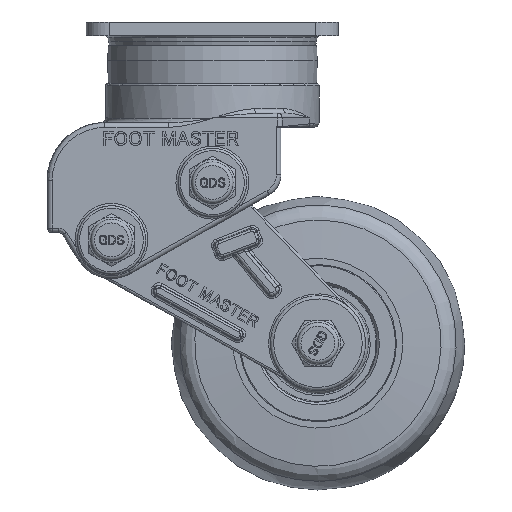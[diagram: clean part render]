
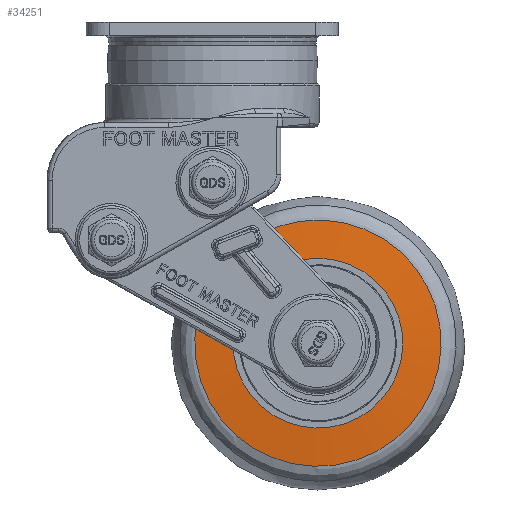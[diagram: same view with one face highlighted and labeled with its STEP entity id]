
A CAD part, front view. The second image highlights one B-rep face of the part: STEP entity #34251.
In plain terms, the highlighted conical face has half-angle 85 degrees and reference radius 22.669 mm.
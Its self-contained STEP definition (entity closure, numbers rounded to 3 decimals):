
#2343=CONICAL_SURFACE('',#36449,22.669,1.484);
#5573=FACE_OUTER_BOUND('',#7533,.T.);
#7533=EDGE_LOOP('',(#24770,#24771,#24772,#24773,#24774,#24775));
#9733=LINE('',#48660,#12195);
#12195=VECTOR('',#39584,22.669);
#14574=CIRCLE('',#36447,26.838);
#14575=CIRCLE('',#36448,26.838);
#14576=CIRCLE('',#36450,18.5);
#14577=CIRCLE('',#36451,18.5);
#15951=VERTEX_POINT('',#48653);
#15952=VERTEX_POINT('',#48655);
#15953=VERTEX_POINT('',#48659);
#15954=VERTEX_POINT('',#48661);
#19377=EDGE_CURVE('',#15951,#15952,#14574,.T.);
#19378=EDGE_CURVE('',#15952,#15951,#14575,.T.);
#19379=EDGE_CURVE('',#15951,#15953,#9733,.T.);
#19380=EDGE_CURVE('',#15953,#15954,#14576,.T.);
#19381=EDGE_CURVE('',#15954,#15953,#14577,.T.);
#24770=ORIENTED_EDGE('',*,*,#19378,.F.);
#24771=ORIENTED_EDGE('',*,*,#19377,.F.);
#24772=ORIENTED_EDGE('',*,*,#19379,.T.);
#24773=ORIENTED_EDGE('',*,*,#19380,.T.);
#24774=ORIENTED_EDGE('',*,*,#19381,.T.);
#24775=ORIENTED_EDGE('',*,*,#19379,.F.);
#34251=ADVANCED_FACE('',(#5573),#2343,.T.);
#36447=AXIS2_PLACEMENT_3D('',#48656,#39578,#39579);
#36448=AXIS2_PLACEMENT_3D('',#48657,#39580,#39581);
#36449=AXIS2_PLACEMENT_3D('',#48658,#39582,#39583);
#36450=AXIS2_PLACEMENT_3D('',#48662,#39585,#39586);
#36451=AXIS2_PLACEMENT_3D('',#48663,#39587,#39588);
#39578=DIRECTION('center_axis',(0.,1.,0.));
#39579=DIRECTION('ref_axis',(0.309,0.,-0.951));
#39580=DIRECTION('center_axis',(0.,1.,0.));
#39581=DIRECTION('ref_axis',(0.309,0.,-0.951));
#39582=DIRECTION('center_axis',(0.,1.,0.));
#39583=DIRECTION('ref_axis',(0.309,0.,-0.951));
#39584=DIRECTION('',(0.308,-0.087,-0.947));
#39585=DIRECTION('center_axis',(0.,1.,0.));
#39586=DIRECTION('ref_axis',(0.309,0.,-0.951));
#39587=DIRECTION('center_axis',(0.,1.,0.));
#39588=DIRECTION('ref_axis',(0.309,0.,-0.951));
#48653=CARTESIAN_POINT('',(-17.316,-8.866,-33.467));
#48655=CARTESIAN_POINT('',(-0.707,-8.866,-84.51));
#48656=CARTESIAN_POINT('Origin',(-9.011,-8.866,-58.989));
#48657=CARTESIAN_POINT('Origin',(-9.011,-8.866,-58.989));
#48658=CARTESIAN_POINT('Origin',(-9.011,-9.23,-58.989));
#48659=CARTESIAN_POINT('',(-14.736,-9.595,-41.397));
#48660=CARTESIAN_POINT('',(-16.026,-9.23,-37.432));
#48661=CARTESIAN_POINT('',(-3.287,-9.595,-76.581));
#48662=CARTESIAN_POINT('Origin',(-9.011,-9.595,-58.989));
#48663=CARTESIAN_POINT('Origin',(-9.011,-9.595,-58.989));
